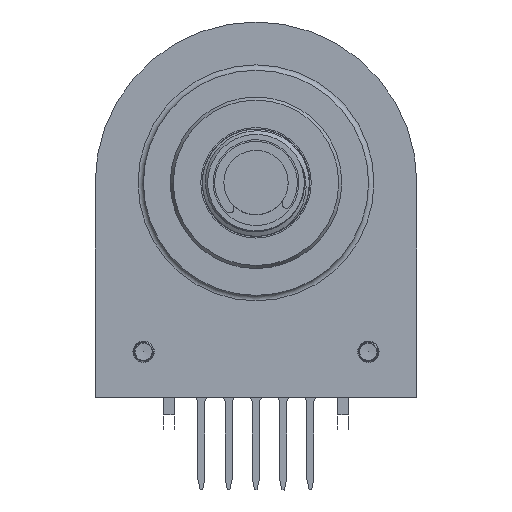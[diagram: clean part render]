
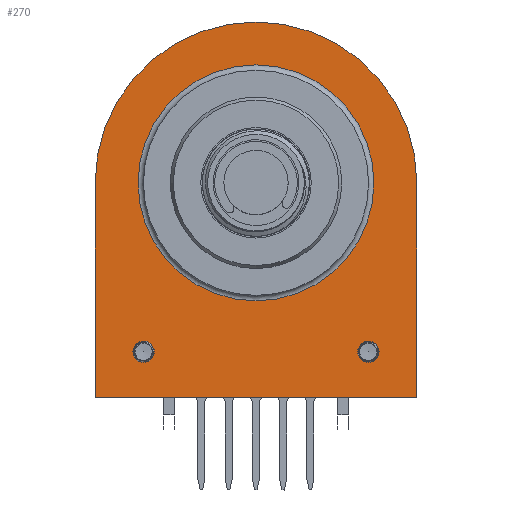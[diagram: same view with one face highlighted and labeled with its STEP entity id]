
A CAD part, top view. The second image highlights one B-rep face of the part: STEP entity #270.
In plain terms, the highlighted planar face has unit normal (0, 0, 1).
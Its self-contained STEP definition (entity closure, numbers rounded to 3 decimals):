
#58 = VECTOR ( 'NONE', #3503, 1000. ) ;
#83 = CARTESIAN_POINT ( 'NONE',  ( -15., -20., 0. ) ) ;
#270 = ADVANCED_FACE ( 'NONE', ( #2511, #20343, #17008, #19788 ), #3751, .T. ) ;
#745 = EDGE_CURVE ( 'NONE', #16769, #16769, #14754, .T. ) ;
#962 = DIRECTION ( 'NONE',  ( 0., 0., 1. ) ) ;
#1097 = CARTESIAN_POINT ( 'NONE',  ( -10.48, -15.75, 0. ) ) ;
#1570 = CARTESIAN_POINT ( 'NONE',  ( 0., 0., 0. ) ) ;
#1576 = ORIENTED_EDGE ( 'NONE', *, *, #17730, .T. ) ;
#1882 = LINE ( 'NONE', #83, #15561 ) ;
#2058 = EDGE_LOOP ( 'NONE', ( #14720, #21420, #1576, #14809 ) ) ;
#2297 = CIRCLE ( 'NONE', #9296, 15. ) ;
#2511 = FACE_BOUND ( 'NONE', #7291, .T. ) ;
#2933 = DIRECTION ( 'NONE',  ( 1., 0., 0. ) ) ;
#3503 = DIRECTION ( 'NONE',  ( 0., 1., 0. ) ) ;
#3751 = PLANE ( 'NONE',  #11515 ) ;
#3915 = CIRCLE ( 'NONE', #18656, 1. ) ;
#3975 = AXIS2_PLACEMENT_3D ( 'NONE', #6272, #962, #2933 ) ;
#4203 = DIRECTION ( 'NONE',  ( 1., 0., 0. ) ) ;
#5466 = LINE ( 'NONE', #18377, #13840 ) ;
#6272 = CARTESIAN_POINT ( 'NONE',  ( 10.48, -15.75, 0. ) ) ;
#6786 = VERTEX_POINT ( 'NONE', #11564 ) ;
#7071 = CARTESIAN_POINT ( 'NONE',  ( -15., -20., 0. ) ) ;
#7291 = EDGE_LOOP ( 'NONE', ( #12238 ) ) ;
#7640 = CARTESIAN_POINT ( 'NONE',  ( 0., 0., 0. ) ) ;
#8353 = DIRECTION ( 'NONE',  ( 1., 0., 0. ) ) ;
#9296 = AXIS2_PLACEMENT_3D ( 'NONE', #11267, #12925, #4203 ) ;
#9302 = CARTESIAN_POINT ( 'NONE',  ( 11., 0., 0. ) ) ;
#9443 = EDGE_CURVE ( 'NONE', #19519, #19519, #3915, .T. ) ;
#9458 = VERTEX_POINT ( 'NONE', #20895 ) ;
#10213 = DIRECTION ( 'NONE',  ( 0., 0., 1. ) ) ;
#10520 = CIRCLE ( 'NONE', #3975, 1. ) ;
#10664 = DIRECTION ( 'NONE',  ( 1., 0., 0. ) ) ;
#11192 = LINE ( 'NONE', #16124, #58 ) ;
#11267 = CARTESIAN_POINT ( 'NONE',  ( 0., 0., 0. ) ) ;
#11515 = AXIS2_PLACEMENT_3D ( 'NONE', #7640, #13105, #20261 ) ;
#11564 = CARTESIAN_POINT ( 'NONE',  ( 15., -20., 0. ) ) ;
#11589 = EDGE_CURVE ( 'NONE', #14769, #6786, #1882, .T. ) ;
#12238 = ORIENTED_EDGE ( 'NONE', *, *, #745, .T. ) ;
#12327 = DIRECTION ( 'NONE',  ( 0., 0., -1. ) ) ;
#12733 = CARTESIAN_POINT ( 'NONE',  ( 11.48, -15.75, 0. ) ) ;
#12925 = DIRECTION ( 'NONE',  ( 0., 0., 1. ) ) ;
#12999 = EDGE_LOOP ( 'NONE', ( #16213 ) ) ;
#13076 = DIRECTION ( 'NONE',  ( 0., -1., 0. ) ) ;
#13105 = DIRECTION ( 'NONE',  ( 0., 0., 1. ) ) ;
#13544 = EDGE_CURVE ( 'NONE', #21430, #21430, #10520, .T. ) ;
#13840 = VECTOR ( 'NONE', #13076, 1000. ) ;
#14720 = ORIENTED_EDGE ( 'NONE', *, *, #15096, .T. ) ;
#14754 = CIRCLE ( 'NONE', #20619, 11. ) ;
#14769 = VERTEX_POINT ( 'NONE', #7071 ) ;
#14809 = ORIENTED_EDGE ( 'NONE', *, *, #17706, .T. ) ;
#15096 = EDGE_CURVE ( 'NONE', #18007, #14769, #5466, .T. ) ;
#15561 = VECTOR ( 'NONE', #10664, 1000. ) ;
#15727 = EDGE_LOOP ( 'NONE', ( #18583 ) ) ;
#16124 = CARTESIAN_POINT ( 'NONE',  ( 15., -20., 0. ) ) ;
#16213 = ORIENTED_EDGE ( 'NONE', *, *, #9443, .F. ) ;
#16495 = CARTESIAN_POINT ( 'NONE',  ( -9.48, -15.75, 0. ) ) ;
#16769 = VERTEX_POINT ( 'NONE', #9302 ) ;
#17008 = FACE_BOUND ( 'NONE', #15727, .T. ) ;
#17103 = CARTESIAN_POINT ( 'NONE',  ( -15., 0., 0. ) ) ;
#17706 = EDGE_CURVE ( 'NONE', #9458, #18007, #2297, .T. ) ;
#17730 = EDGE_CURVE ( 'NONE', #6786, #9458, #11192, .T. ) ;
#18007 = VERTEX_POINT ( 'NONE', #17103 ) ;
#18377 = CARTESIAN_POINT ( 'NONE',  ( -15., -20., 0. ) ) ;
#18583 = ORIENTED_EDGE ( 'NONE', *, *, #13544, .F. ) ;
#18656 = AXIS2_PLACEMENT_3D ( 'NONE', #1097, #10213, #8353 ) ;
#19519 = VERTEX_POINT ( 'NONE', #16495 ) ;
#19788 = FACE_OUTER_BOUND ( 'NONE', #2058, .T. ) ;
#20261 = DIRECTION ( 'NONE',  ( 1., 0., 0. ) ) ;
#20343 = FACE_BOUND ( 'NONE', #12999, .T. ) ;
#20619 = AXIS2_PLACEMENT_3D ( 'NONE', #1570, #12327, #22864 ) ;
#20895 = CARTESIAN_POINT ( 'NONE',  ( 15., 0., 0. ) ) ;
#21420 = ORIENTED_EDGE ( 'NONE', *, *, #11589, .T. ) ;
#21430 = VERTEX_POINT ( 'NONE', #12733 ) ;
#22864 = DIRECTION ( 'NONE',  ( 1., 0., 0. ) ) ;
